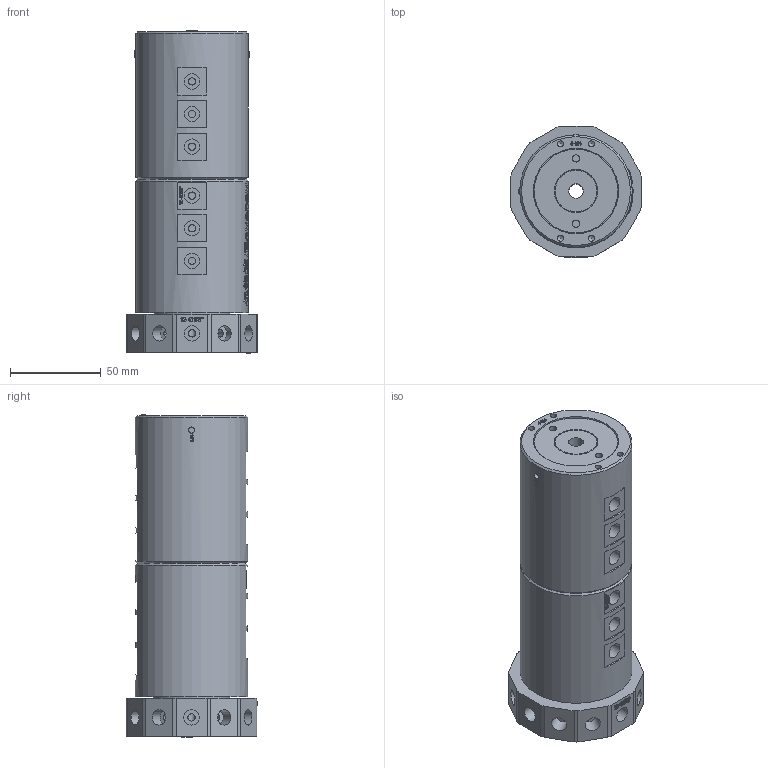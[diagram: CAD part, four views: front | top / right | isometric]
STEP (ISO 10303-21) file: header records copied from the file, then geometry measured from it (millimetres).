
FILE_DESCRIPTION(/* description */ (''),/* implementation_level */ '2;1');
FILE_NAME(/* name */ 'YQ1201.stp',/* time_stamp */ '2025-02-14T11:07:36+08:00',/* author */ (''),/* organization */ (''),/* preprocessor_version */ 'ST-DEVELOPER v16.7',/* originating_system */ 'SIEMENS PLM Software NX 12.0',/* authorisation */ '');
FILE_SCHEMA (('AUTOMOTIVE_DESIGN { 1 0 10303 214 3 1 1 1 }'));
Products named in the file (1): HX0540E8A2D8nfnv
Bounding box: 72 x 72.5 x 178 mm (x, y, z)
Volume: 524509.4 mm3; surface area: 71929.9 mm2
Topology: 1 solids, 2 shells, 1415 faces, 3760 edges, 2537 vertices
Faces by surface type: extrusion 649, plane 539, cylinder 152, bspline 59, cone 16
Full cylindrical faces by diameter (mm): 3.4 x12, 4 x38, 4.1 x12, 4.2 x12, 8 x1, 8.5 x24, 22 x1, 23 x1, 36 x1, 42 x1, 46 x1, 47 x1, 62 x2
Entity records: 52989 total; most frequent: CARTESIAN_POINT 23563, ORIENTED_EDGE 7076, EDGE_CURVE 3538, DIRECTION 3481, B_SPLINE_CURVE_WITH_KNOTS 3193, VERTEX_POINT 2454, EDGE_LOOP 1730, ADVANCED_FACE 1412
